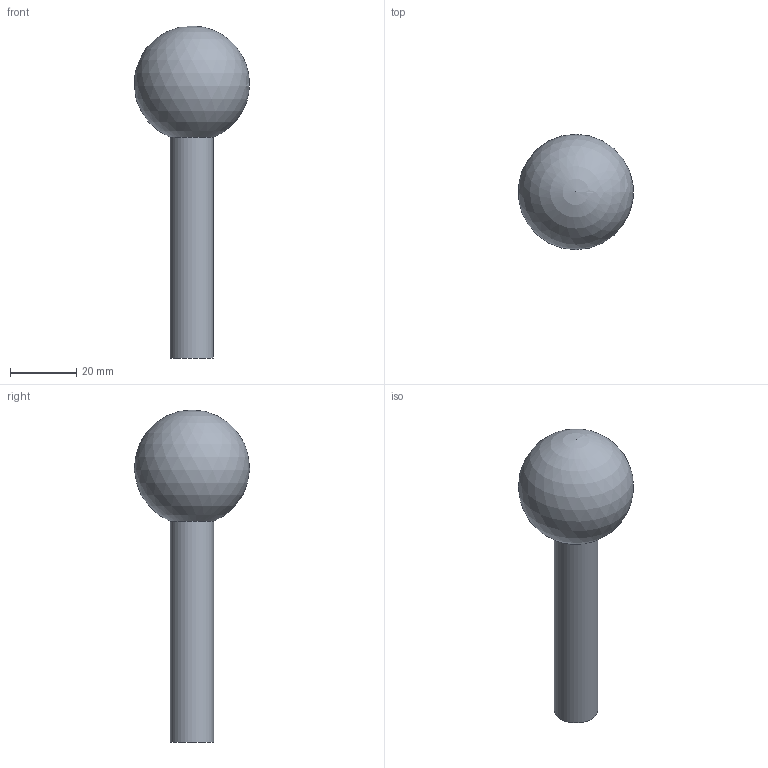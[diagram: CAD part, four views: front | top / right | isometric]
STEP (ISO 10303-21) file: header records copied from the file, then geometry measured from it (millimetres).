
FILE_DESCRIPTION(('Open CASCADE Model'),'2;1');
FILE_NAME('Open CASCADE Shape Model','2026-09-08T19:46:44',('Author'),( 'Open CASCADE'),'Open CASCADE STEP processor 7.9','Open CASCADE 7.9' ,'Unknown');
FILE_SCHEMA(('AUTOMOTIVE_DESIGN { 1 0 10303 214 1 1 1 1 }'));
Length unit declared in the file: millimetre
Products named in the file (1): Open CASCADE STEP translator 7.9 1
Bounding box: 34.6 x 34.72 x 99.87 mm (x, y, z)
Volume: 30707.4 mm3; surface area: 6502.3 mm2
Topology: 1 solids, 1 shells, 3 faces, 5 edges, 3 vertices
Faces by surface type: cylinder 1, sphere 1, plane 1
Full cylindrical faces by diameter (mm): 13.02 x1
Entity records: 131 total; most frequent: DIRECTION 23, CARTESIAN_POINT 19, ORIENTED_EDGE 8, PCURVE 8, DEFINITIONAL_REPRESENTATION 8, LINE 8, VECTOR 8, AXIS2_PLACEMENT_3D 7
